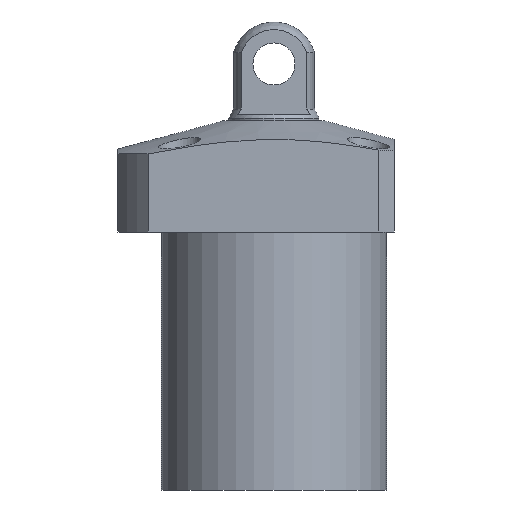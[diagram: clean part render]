
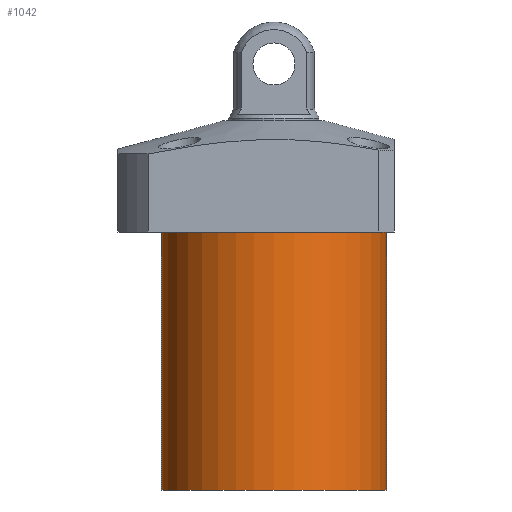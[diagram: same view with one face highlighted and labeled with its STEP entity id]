
A CAD part, front view. The second image highlights one B-rep face of the part: STEP entity #1042.
In plain terms, the highlighted cylindrical face has radius 37.5 mm (diameter 75 mm), a partial arc.
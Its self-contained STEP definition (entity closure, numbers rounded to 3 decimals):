
#63 = VERTEX_POINT ( 'NONE', #1218 ) ;
#188 = VECTOR ( 'NONE', #797, 1000. ) ;
#216 = LINE ( 'NONE', #1542, #188 ) ;
#226 = DIRECTION ( 'NONE',  ( 1., 0., 0. ) ) ;
#227 = ORIENTED_EDGE ( 'NONE', *, *, #462, .F. ) ;
#261 = CARTESIAN_POINT ( 'NONE',  ( 0., 0., -104.5 ) ) ;
#362 = AXIS2_PLACEMENT_3D ( 'NONE', #1780, #967, #1715 ) ;
#441 = EDGE_CURVE ( 'NONE', #648, #2402, #1945, .T. ) ;
#462 = EDGE_CURVE ( 'NONE', #63, #2402, #216, .T. ) ;
#596 = CYLINDRICAL_SURFACE ( 'NONE', #362, 37.5 ) ;
#648 = VERTEX_POINT ( 'NONE', #652 ) ;
#652 = CARTESIAN_POINT ( 'NONE',  ( 37.5, 0., -18.5 ) ) ;
#797 = DIRECTION ( 'NONE',  ( 0., 0., 1. ) ) ;
#822 = LINE ( 'NONE', #1754, #2086 ) ;
#890 = CIRCLE ( 'NONE', #1503, 37.5 ) ;
#967 = DIRECTION ( 'NONE',  ( 0., 0., 1. ) ) ;
#980 = CARTESIAN_POINT ( 'NONE',  ( 0., 0., -18.5 ) ) ;
#1042 = ADVANCED_FACE ( 'NONE', ( #2067 ), #596, .T. ) ;
#1196 = DIRECTION ( 'NONE',  ( 0., 0., 1. ) ) ;
#1218 = CARTESIAN_POINT ( 'NONE',  ( -37.5, 0., -104.5 ) ) ;
#1230 = DIRECTION ( 'NONE',  ( -1., 0., 0. ) ) ;
#1357 = DIRECTION ( 'NONE',  ( 0., 0., -1. ) ) ;
#1448 = AXIS2_PLACEMENT_3D ( 'NONE', #980, #1357, #226 ) ;
#1503 = AXIS2_PLACEMENT_3D ( 'NONE', #261, #2146, #1230 ) ;
#1529 = ORIENTED_EDGE ( 'NONE', *, *, #441, .T. ) ;
#1542 = CARTESIAN_POINT ( 'NONE',  ( -37.5, 0., -104.5 ) ) ;
#1615 = EDGE_LOOP ( 'NONE', ( #227, #1886, #2269, #1529 ) ) ;
#1715 = DIRECTION ( 'NONE',  ( 1., 0., 0. ) ) ;
#1754 = CARTESIAN_POINT ( 'NONE',  ( 37.5, 0., -104.5 ) ) ;
#1780 = CARTESIAN_POINT ( 'NONE',  ( 0., 0., -104.5 ) ) ;
#1871 = EDGE_CURVE ( 'NONE', #2099, #648, #822, .T. ) ;
#1885 = CARTESIAN_POINT ( 'NONE',  ( -37.5, 0., -18.5 ) ) ;
#1886 = ORIENTED_EDGE ( 'NONE', *, *, #1912, .F. ) ;
#1912 = EDGE_CURVE ( 'NONE', #2099, #63, #890, .T. ) ;
#1945 = CIRCLE ( 'NONE', #1448, 37.5 ) ;
#2067 = FACE_OUTER_BOUND ( 'NONE', #1615, .T. ) ;
#2086 = VECTOR ( 'NONE', #1196, 1000. ) ;
#2099 = VERTEX_POINT ( 'NONE', #2203 ) ;
#2146 = DIRECTION ( 'NONE',  ( 0., 0., -1. ) ) ;
#2203 = CARTESIAN_POINT ( 'NONE',  ( 37.5, 0., -104.5 ) ) ;
#2269 = ORIENTED_EDGE ( 'NONE', *, *, #1871, .T. ) ;
#2402 = VERTEX_POINT ( 'NONE', #1885 ) ;
